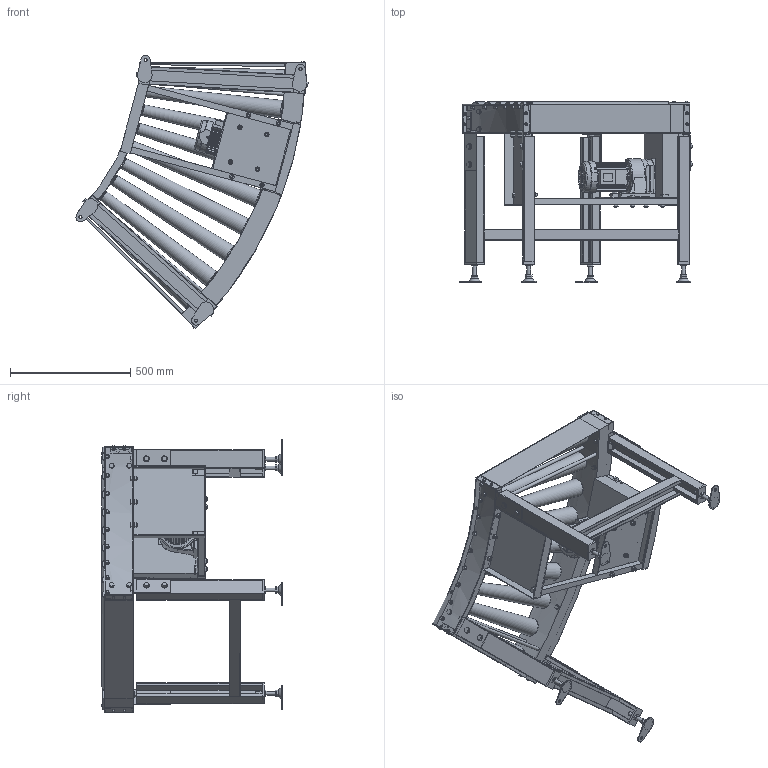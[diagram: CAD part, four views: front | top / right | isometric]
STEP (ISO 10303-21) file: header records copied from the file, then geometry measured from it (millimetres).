
FILE_DESCRIPTION( (''), '2;1');
FILE_NAME ('WEB-MCC3-45-630-100-45°-R.stp','2025-07-18T08:00:21',(''),(''),'spGate 20.6.2 (****-****-****-****)','','');
FILE_SCHEMA (('AUTOMOTIVE_DESIGN'));
Length unit declared in the file: millimetre
Products named in the file (22): WEB-MCC3-45-630-100-45_-R; TEMP_X_T-prt0; TEMP_X_T-prt1; TEMP_X_T-prt2; TEMP_X_T-prt3; TEMP_X_T-prt4; TEMP_X_T-prt5; TEMP_X_T-prt6; TEMP_X_T-prt7; TEMP_X_T-prt8; TEMP_X_T-prt9; TEMP_X_T-prt10; TEMP_X_T-prt11; TEMP_X_T-prt12; TEMP_X_T-prt13; TEMP_X_T-prt14; TEMP_X_T-prt15; TEMP_X_T-prt16; TEMP_X_T-prt17; TEMP_X_T-prt18; TEMP_X_T-prt19; TEMP_X_T-prt20
Assembly tree (21 placements, depth 2):
  WEB-MCC3-45-630-100-45_-R
    TEMP_X_T-prt0
    TEMP_X_T-prt1
    TEMP_X_T-prt2
    TEMP_X_T-prt3
    TEMP_X_T-prt4
    TEMP_X_T-prt5
    TEMP_X_T-prt6
    TEMP_X_T-prt7
    TEMP_X_T-prt8
    TEMP_X_T-prt9
    TEMP_X_T-prt10
    TEMP_X_T-prt11
    TEMP_X_T-prt12
    TEMP_X_T-prt13
    TEMP_X_T-prt14
    TEMP_X_T-prt15
    TEMP_X_T-prt16
    TEMP_X_T-prt17
    TEMP_X_T-prt18
    TEMP_X_T-prt19
    TEMP_X_T-prt20
Bounding box: 965.34 x 751 x 1135.33 mm (x, y, z)
Volume: 37152457.2 mm3; surface area: 4949832.1 mm2
Topology: 21 solids, 22 shells, 2615 faces, 6710 edges, 4443 vertices
Faces by surface type: plane 2025, cylinder 515, bspline 75
Full cylindrical faces by diameter (mm): 5 x4, 6 x28, 8 x6, 9.2 x4, 10 x46, 10.5 x4, 12 x11, 12.2 x12, 13 x12, 13.8 x12, 15 x1, 15.4 x19, 16 x16, 17.3 x9, 18 x14, 18.4 x24, 21 x4, 21.5 x1, 24 x8, 28 x10, 31 x1, 63 x1, 113.2 x1, 153 x1
Entity records: 140345 total; most frequent: CARTESIAN_POINT 21479, ORIENTED_EDGE 13418, DIRECTION 13130, COLOUR_RGB 9345, PRESENTATION_STYLE_ASSIGNMENT 9345, STYLED_ITEM 9345, EDGE_CURVE 6709, DRAUGHTING_PRE_DEFINED_CURVE_FONT 6709
